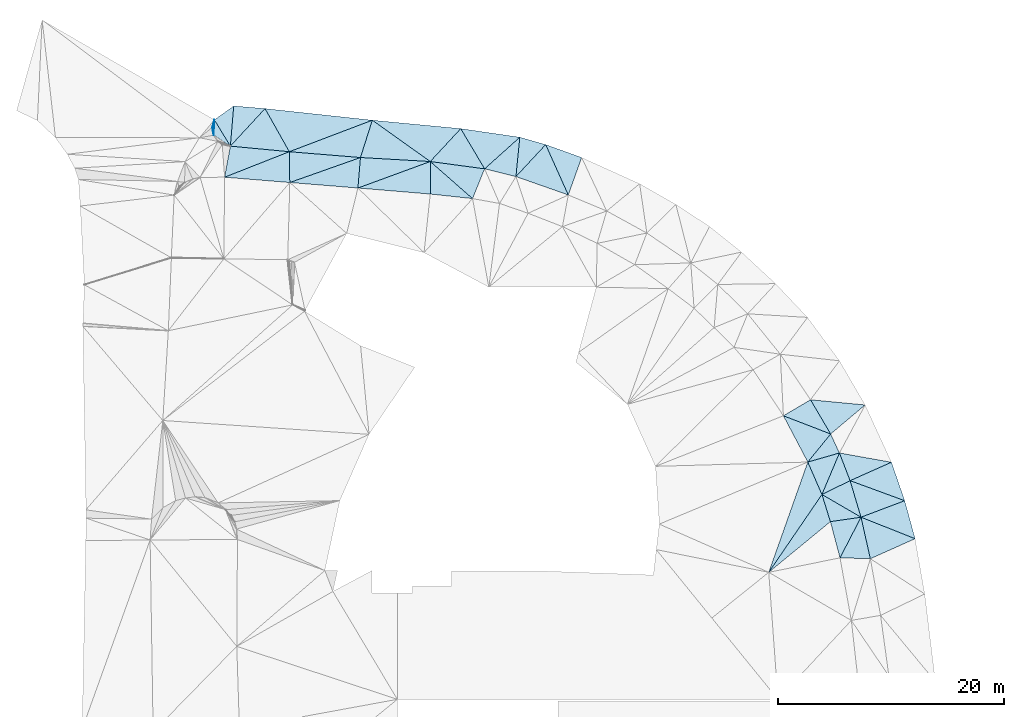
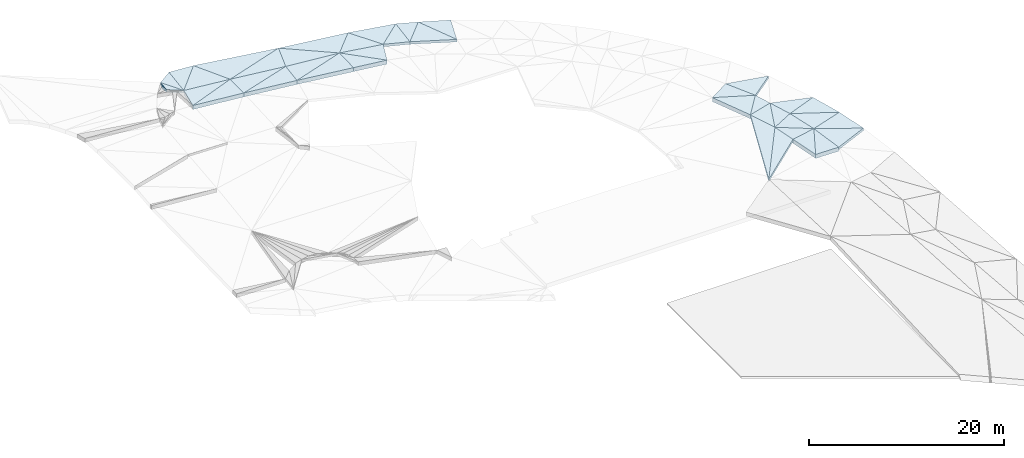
# One storey, part 10 of 23: 40 slabs, 3 elements without a shape of their own.
"""IFC2X3 building model written with IfcOpenShell, lengths in metres."""

from ifc_helpers import new_model, entity, si_unit, converted_unit, direction, frame, origin, place, context, subcontext, project, spatial, polyline, outline, extrude, material, layer, layer_set, type_object, element, aggregate, save


model = new_model("IFC2X3")

# Units and contexts
model_context = context("Model", 3, precision=1e-05, world=origin(), true_north=direction((0.7716245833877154, 0.6360782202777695)))
body_context = subcontext(model_context, "Body", "Model", "MODEL_VIEW")
ifc_project = project(units=[si_unit("LENGTHUNIT", "METRE"), converted_unit("PLANEANGLEUNIT", "DEGREE", entity("IfcPlaneAngleMeasure", 0.017453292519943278), si_unit("PLANEANGLEUNIT", "RADIAN"), dimensions=[0, 0, 0, 0, 0, 0, 0]), si_unit("AREAUNIT", "SQUARE_METRE")], contexts=[model_context])

# Site, building, storey
site_placement = place(None, origin())
site = spatial("IfcSite", under=ifc_project, at=site_placement, Name="Default", CompositionType="ELEMENT")
building_placement = place(site_placement, origin())
building = spatial("IfcBuilding", under=site, at=building_placement, Name="<Building Name>", CompositionType="ELEMENT")
storey_placement = place(building_placement, origin())
storey = spatial("IfcBuildingStorey", under=building, at=storey_placement, Name="00 - HAV", CompositionType="ELEMENT", Elevation=0.0)

# Slabs
slab_1_placement = place(storey_placement, frame((224.3175317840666, 93.71309800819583, 32.7900000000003)))
slab_1 = element("IfcSlab", 1, at=slab_1_placement, inside=storey, Name="Floor:771 Grøntarealer", ObjectType="Floor:771 Grøntarealer", PredefinedType="NOTDEFINED")
ifc_material_1 = material(Name="815 - Terrain, Grøntareal")
ifc_layer_1 = layer(ifc_material_1, 0.02)
ifc_material_2 = material(Name="Site - Soil - Jordlag")
ifc_layer_2 = layer(ifc_material_2, 0.30000000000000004)
ifc_layer_set_1 = layer_set([ifc_layer_1, ifc_layer_2], Name="Floor:771 Grøntarealer")
slab_type_1 = type_object("IfcSlabType", Name="Floor:771 Grøntarealer", PredefinedType="NOTDEFINED")
slab_2_placement = place(slab_1_placement, origin())
slab_2 = element("IfcSlab", 2, at=slab_2_placement, type_object=slab_type_1, material=ifc_layer_set_1, Name="Floor:771 Grøntarealer", ObjectType="Floor:771 Grøntarealer", PredefinedType="NOTDEFINED", context=body_context, shape_type="SweptSolid", body=[
    extrude(outline(polyline([(3.102920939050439, 1.0368373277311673), (2.353564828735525, 3.4601130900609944), (-2.3535648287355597, -3.4601130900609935), (3.102920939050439, 1.0368373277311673)])), frame((55.203150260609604, 7.485100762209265, 0.6749999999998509), z_axis=(0.029996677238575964, -0.12279168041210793, 0.9919790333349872), x_axis=(0.9995499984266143, 0.0036850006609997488, -0.02976947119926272)), (0.02976947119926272, -0.12284696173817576, -0.9919790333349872), 0.3200000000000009),
])
slab_3_placement = place(slab_1_placement, origin())
slab_3 = element("IfcSlab", 3, at=slab_3_placement, type_object=slab_type_1, material=ifc_layer_set_1, Name="Floor:771 Grøntarealer", ObjectType="Floor:771 Grøntarealer", PredefinedType="NOTDEFINED", context=body_context, shape_type="SweptSolid", body=[
    extrude(outline(polyline([(2.9781893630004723, 2.020065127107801), (1.7271135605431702, 4.901403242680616), (-1.7271135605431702, -4.901403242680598), (2.9781893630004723, 2.020065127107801)])), frame((54.577651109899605, 8.919909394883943, 0.8049999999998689), z_axis=(-0.011130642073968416, -0.09504100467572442, 0.9954111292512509), x_axis=(0.9999380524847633, -0.001057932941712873, 0.011080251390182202)), (-0.011080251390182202, -0.09504689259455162, -0.9954111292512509), 0.3200000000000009),
])
aggregate(slab_1, [slab_2, slab_3])

slab_4_placement = place(storey_placement, frame((227.93461709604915, 49.93152636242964, 29.770000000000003)))
slab_4 = element("IfcSlab", 4, at=slab_4_placement, inside=storey, Name="Floor:771 Grøntarealer", ObjectType="Floor:771 Grøntarealer", PredefinedType="NOTDEFINED")
slab_5_placement = place(slab_4_placement, origin())
slab_5 = element("IfcSlab", 5, at=slab_5_placement, type_object=slab_type_1, material=ifc_layer_set_1, Name="Floor:771 Grøntarealer", ObjectType="Floor:771 Grøntarealer", PredefinedType="NOTDEFINED", context=body_context, shape_type="SweptSolid", body=[
    extrude(outline(polyline([(2.4465169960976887, -1.144851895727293), (1.524921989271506, 2.2295165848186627), (-2.347734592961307, 0.783165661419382), (2.4465169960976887, -1.144851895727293)])), frame((59.73832453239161, 51.928783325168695, 3.675006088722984), z_axis=(0.07044299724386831, -0.06362009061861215, 0.9954849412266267), x_axis=(0.9975158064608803, 0.004492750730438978, -0.07029958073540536)), (0.07029958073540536, -0.06377852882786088, -0.9954849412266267), 0.3200000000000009),
])
slab_6_placement = place(slab_4_placement, origin())
slab_6 = element("IfcSlab", 6, at=slab_6_placement, type_object=slab_type_1, material=ifc_layer_set_1, Name="Floor:771 Grøntarealer", ObjectType="Floor:771 Grøntarealer", PredefinedType="NOTDEFINED", context=body_context, shape_type="SweptSolid", body=[
    extrude(outline(polyline([(2.9791384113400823, 0.47548631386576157), (-1.811519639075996, 2.412415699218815), (-0.9846231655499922, -1.2818964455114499), (2.9791384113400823, 0.47548631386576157)])), frame((59.20479711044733, 50.30758351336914, 3.5607568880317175), z_axis=(0.05889713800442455, -0.092280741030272, 0.9939896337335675), x_axis=(0.9982640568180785, 0.005444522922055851, -0.05864494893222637)), (0.05864494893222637, -0.09244121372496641, -0.9939896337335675), 0.3200000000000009),
])
slab_7_placement = place(slab_4_placement, origin())
slab_7 = element("IfcSlab", 7, at=slab_7_placement, type_object=slab_type_1, material=ifc_layer_set_1, Name="Floor:771 Grøntarealer", ObjectType="Floor:771 Grøntarealer", PredefinedType="NOTDEFINED", context=body_context, shape_type="SweptSolid", body=[
    extrude(outline(polyline([(2.4772959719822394, -1.0518327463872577), (1.302375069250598, 2.3552423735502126), (-2.3678962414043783, 0.7345917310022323), (2.4772959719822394, -1.0518327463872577)])), frame((58.78971971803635, 55.205093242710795, 3.9397768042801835), z_axis=(0.07805125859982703, -0.03463094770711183, 0.9963476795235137), x_axis=(0.9969493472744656, 0.0027112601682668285, -0.07800415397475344)), (0.07800415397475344, -0.03473691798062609, -0.9963476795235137), 0.3200000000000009),
])
slab_8_placement = place(slab_4_placement, origin())
slab_8 = element("IfcSlab", 8, at=slab_8_placement, type_object=slab_type_1, material=ifc_layer_set_1, Name="Floor:771 Grøntarealer", ObjectType="Floor:771 Grøntarealer", PredefinedType="NOTDEFINED", context=body_context, shape_type="SweptSolid", body=[
    extrude(outline(polyline([(2.8908761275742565, 0.3697324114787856), (-1.9510387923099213, 2.165020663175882), (-0.9813599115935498, -1.0777440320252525), (2.8908761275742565, 0.3697324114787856)])), frame((58.375450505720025, 53.77966436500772, 3.8867618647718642), z_axis=(0.0688917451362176, -0.05947290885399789, 0.9958498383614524), x_axis=(0.9976241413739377, 0.004106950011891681, -0.06876921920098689)), (0.06876921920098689, -0.05961454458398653, -0.9958498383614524), 0.3200000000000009),
])
slab_9_placement = place(slab_4_placement, origin())
slab_9 = element("IfcSlab", 9, at=slab_9_placement, type_object=slab_type_1, material=ifc_layer_set_1, Name="Floor:771 Grøntarealer", ObjectType="Floor:771 Grøntarealer", PredefinedType="NOTDEFINED", context=body_context, shape_type="SweptSolid", body=[
    extrude(outline(polyline([(2.5083589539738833, 0.6881425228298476), (-2.1087989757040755, 1.5226199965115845), (-1.162400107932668, -0.9314030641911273), (2.5083589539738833, 0.6881425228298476)])), frame((57.587747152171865, 56.867104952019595, 4.093302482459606), z_axis=(0.07972522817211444, -0.03842795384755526, 0.9960758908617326), x_axis=(0.9968168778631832, 0.003073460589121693, -0.07966596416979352)), (0.07966596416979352, -0.038550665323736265, -0.9960758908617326), 0.3200000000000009),
])
slab_10_placement = place(slab_4_placement, origin())
slab_10 = element("IfcSlab", 10, at=slab_10_placement, type_object=slab_type_1, material=ifc_layer_set_1, Name="Floor:771 Grøntarealer", ObjectType="Floor:771 Grøntarealer", PredefinedType="NOTDEFINED", context=body_context, shape_type="SweptSolid", body=[
    extrude(outline(polyline([(2.5647165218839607, 1.181219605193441), (-2.290266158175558, 1.6515845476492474), (-0.5005209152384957, -1.3812049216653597), (2.5647165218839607, 1.181219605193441)])), frame((55.2083223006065, 61.44416889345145, 4.543537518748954), z_axis=(0.08802515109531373, -0.027102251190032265, 0.9957494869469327), x_axis=(0.9961182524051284, 0.002394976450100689, -0.08799256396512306)), (0.08799256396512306, -0.027207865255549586, -0.9957494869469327), 0.3200000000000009),
])
slab_11_placement = place(slab_4_placement, origin())
slab_11 = element("IfcSlab", 11, at=slab_11_placement, type_object=slab_type_1, material=ifc_layer_set_1, Name="Floor:771 Grøntarealer", ObjectType="Floor:771 Grøntarealer", PredefinedType="NOTDEFINED", context=body_context, shape_type="SweptSolid", body=[
    extrude(outline(polyline([(2.187973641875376, 1.0806578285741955), (-1.0013381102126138, 2.2287826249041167), (1.0013381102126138, -2.228782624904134), (2.187973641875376, 1.0806578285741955)])), frame((30.498721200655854, 83.4349060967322, 6.9500000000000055), z_axis=(0.04625478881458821, -0.019582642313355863, 0.9987377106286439), x_axis=(0.9989296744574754, 0.0009067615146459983, -0.046245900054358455)), (0.046245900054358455, -0.019603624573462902, -0.9987377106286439), 0.3200000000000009),
])
slab_12_placement = place(slab_4_placement, origin())
slab_12 = element("IfcSlab", 12, at=slab_12_placement, type_object=slab_type_1, material=ifc_layer_set_1, Name="Floor:771 Grøntarealer", ObjectType="Floor:771 Grøntarealer", PredefinedType="NOTDEFINED", context=body_context, shape_type="SweptSolid", body=[
    extrude(outline(polyline([(1.6206371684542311, 1.3275018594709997), (-0.674180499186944, 1.9834834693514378), (-1.01765584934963, -1.4998661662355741), (1.6206371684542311, 1.3275018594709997)])), frame((27.882345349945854, 84.33337796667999, 7.143648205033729), z_axis=(0.0746974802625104, -0.01306988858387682, 0.9971205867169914), x_axis=(0.9972062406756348, 0.0009790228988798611, -0.07469106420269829)), (0.07469106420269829, -0.013106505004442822, -0.9971205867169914), 0.3200000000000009),
])
slab_13_placement = place(slab_4_placement, origin())
slab_13 = element("IfcSlab", 13, at=slab_13_placement, type_object=slab_type_1, material=ifc_layer_set_1, Name="Floor:771 Grøntarealer", ObjectType="Floor:771 Grøntarealer", PredefinedType="NOTDEFINED", context=body_context, shape_type="SweptSolid", body=[
    extrude(outline(polyline([(-0.3289814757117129, 2.950641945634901), (-2.9663986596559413, 0.12245690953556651), (1.676489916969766, -1.5056664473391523), (-0.3289814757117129, 2.950641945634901)])), frame((29.826626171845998, 82.71202926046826, 6.990873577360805), z_axis=(0.07013664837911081, -0.008808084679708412, 0.9974985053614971), x_axis=(0.9975373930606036, 0.0006192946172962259, -0.07013391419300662)), (0.07013391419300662, -0.00882982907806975, -0.9974985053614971), 0.3200000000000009),
])
slab_14_placement = place(slab_4_placement, origin())
slab_14 = element("IfcSlab", 14, at=slab_14_placement, type_object=slab_type_1, material=ifc_layer_set_1, Name="Floor:771 Grøntarealer", ObjectType="Floor:771 Grøntarealer", PredefinedType="NOTDEFINED", context=body_context, shape_type="SweptSolid", body=[
    extrude(outline(polyline([(2.8459231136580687, 1.2148936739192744), (-2.3870859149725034, 1.9690266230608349), (-0.26894730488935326, -1.5862636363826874), (2.8459231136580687, 1.2148936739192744)])), frame((24.367755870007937, 85.10405840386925, 7.386555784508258), z_axis=(0.050495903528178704, 0.018803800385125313, 0.9985472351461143), x_axis=(0.9987242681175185, -0.0009507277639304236, -0.0504869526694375)), (0.0504869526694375, 0.018827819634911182, -0.9985472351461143), 0.3200000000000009),
])
slab_15_placement = place(slab_4_placement, origin())
slab_15 = element("IfcSlab", 15, at=slab_15_placement, type_object=slab_type_1, material=ifc_layer_set_1, Name="Floor:771 Grøntarealer", ObjectType="Floor:771 Grøntarealer", PredefinedType="NOTDEFINED", context=body_context, shape_type="SweptSolid", body=[
    extrude(outline(polyline([(0.771283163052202, 2.27849436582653), (-2.349480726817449, -0.5160955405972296), (0.4276810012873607, -1.2048427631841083), (0.771283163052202, 2.27849436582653)])), frame((26.4412038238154, 84.03691455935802, 7.250339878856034), z_axis=(0.07945810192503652, -0.013535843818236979, 0.9967463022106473), x_axis=(0.9968382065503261, 0.001078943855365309, -0.0794507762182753)), (0.0794507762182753, -0.013578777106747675, -0.9967463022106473), 0.3200000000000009),
])
slab_16_placement = place(slab_4_placement, origin())
slab_16 = element("IfcSlab", 16, at=slab_16_placement, type_object=slab_type_1, material=ifc_layer_set_1, Name="Floor:771 Grøntarealer", ObjectType="Floor:771 Grøntarealer", PredefinedType="NOTDEFINED", context=body_context, shape_type="SweptSolid", body=[
    extrude(outline(polyline([(4.0627986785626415, 1.19888976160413), (-3.766022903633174, 1.939263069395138), (1.3645560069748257, -1.712155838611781), (4.0627986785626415, 1.19888976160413)])), frame((17.925252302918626, 85.87918745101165, 7.67631928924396), z_axis=(0.046186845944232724, 0.015576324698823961, 0.9988113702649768), x_axis=(0.9989328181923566, -0.0007201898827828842, -0.046181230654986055)), (0.046181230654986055, 0.015592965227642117, -0.9988113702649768), 0.3200000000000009),
])
slab_17_placement = place(slab_4_placement, origin())
slab_17 = element("IfcSlab", 17, at=slab_17_placement, type_object=slab_type_1, material=ifc_layer_set_1, Name="Floor:771 Grøntarealer", ObjectType="Floor:771 Grøntarealer", PredefinedType="NOTDEFINED", context=body_context, shape_type="SweptSolid", body=[
    extrude(outline(polyline([(-0.10678756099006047, 2.8049518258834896), (-2.8049762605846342, -0.10614379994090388), (2.010866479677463, -0.7506270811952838), (-0.10678756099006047, 2.8049518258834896)])), frame((22.09039096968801, 84.27033437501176, 7.509983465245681), z_axis=(0.045752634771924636, 0.01597947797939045, 0.9988249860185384), x_axis=(0.9989527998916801, -0.0007318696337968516, -0.045746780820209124)), (0.045746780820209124, 0.015996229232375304, -0.9988249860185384), 0.3200000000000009),
])
slab_18_placement = place(slab_4_placement, origin())
slab_18 = element("IfcSlab", 18, at=slab_18_placement, type_object=slab_type_1, material=ifc_layer_set_1, Name="Floor:771 Grøntarealer", ObjectType="Floor:771 Grøntarealer", PredefinedType="NOTDEFINED", context=body_context, shape_type="SweptSolid", body=[
    extrude(outline(polyline([(4.94450312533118, 1.2544734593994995), (-4.55981075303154, 2.2869063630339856), (-2.40948631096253, -1.529846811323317), (4.94450312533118, 1.2544734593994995)])), frame((9.22559353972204, 86.56399903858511, 8.06801430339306), z_axis=(0.052612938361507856, -0.009646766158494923, 0.9985683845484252), x_axis=(0.9986149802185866, 0.0005082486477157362, -0.052610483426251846)), (0.052610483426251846, -0.009660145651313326, -0.9985683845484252), 0.3200000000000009),
])
slab_19_placement = place(slab_4_placement, origin())
slab_19 = element("IfcSlab", 19, at=slab_19_placement, type_object=slab_type_1, material=ifc_layer_set_1, Name="Floor:771 Grøntarealer", ObjectType="Floor:771 Grøntarealer", PredefinedType="NOTDEFINED", context=body_context, shape_type="SweptSolid", body=[
    extrude(outline(polyline([(3.1939189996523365, 2.664406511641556), (-4.157411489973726, -0.12692650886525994), (2.143242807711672, -0.6378623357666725), (3.1939189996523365, 2.664406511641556)])), frame((10.97259944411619, 85.15807003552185, 7.990682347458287), z_axis=(0.04523937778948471, 0.00982267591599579, 0.9989278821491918), x_axis=(0.9989761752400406, -0.00044482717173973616, -0.04523719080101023)), (0.04523719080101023, 0.0098327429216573, -0.9989278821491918), 0.3200000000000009),
])
slab_20_placement = place(slab_4_placement, origin())
slab_20 = element("IfcSlab", 20, at=slab_20_placement, type_object=slab_type_1, material=ifc_layer_set_1, Name="Floor:771 Grøntarealer", ObjectType="Floor:771 Grøntarealer", PredefinedType="NOTDEFINED", context=body_context, shape_type="SweptSolid", body=[
    extrude(outline(polyline([(-2.331478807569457, 2.5599690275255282), (-3.382036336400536, -0.7423375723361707), (2.7982980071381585, -1.0925766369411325), (-2.331478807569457, 2.5599690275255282)])), frame((16.492603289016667, 85.26004351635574, 7.747774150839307), z_axis=(0.04267488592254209, 0.010640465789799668, 0.9990323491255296), x_axis=(0.9990890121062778, -0.00045449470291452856, -0.04267246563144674)), (0.04267246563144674, 0.010650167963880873, -0.9990323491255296), 0.3200000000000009),
])
slab_21_placement = place(slab_4_placement, origin())
slab_21 = element("IfcSlab", 21, at=slab_21_placement, type_object=slab_type_1, material=ifc_layer_set_1, Name="Floor:771 Grøntarealer", ObjectType="Floor:771 Grøntarealer", PredefinedType="NOTDEFINED", context=body_context, shape_type="SweptSolid", body=[
    extrude(outline(polyline([(1.5344355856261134, 1.6602281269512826), (-1.2350897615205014, 1.8913760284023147), (-1.534435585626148, -1.6602281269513), (1.5344355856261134, 1.6602281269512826)])), frame((3.1376630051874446, 87.18832046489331, 8.315000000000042), z_axis=(-0.0007000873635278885, -0.008387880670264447, 0.999964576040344), x_axis=(0.9999997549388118, -5.87225070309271e-06, 0.000700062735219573)), (-0.000700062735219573, -0.008387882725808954, -0.999964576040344), 0.3200000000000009),
])
slab_22_placement = place(slab_4_placement, origin())
slab_22 = element("IfcSlab", 22, at=slab_22_placement, type_object=slab_type_1, material=ifc_layer_set_1, Name="Floor:771 Grøntarealer", ObjectType="Floor:771 Grøntarealer", PredefinedType="NOTDEFINED", context=body_context, shape_type="SweptSolid", body=[
    extrude(outline(polyline([(0.0041717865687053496, 3.075089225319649), (-3.065334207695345, -0.2447801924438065), (2.151962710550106, -0.7430902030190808), (0.0041717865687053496, 3.075089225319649)])), frame((4.6679272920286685, 85.77458182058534, 8.244463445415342), z_axis=(0.02034893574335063, -0.027837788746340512, 0.9994053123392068), x_axis=(0.9997929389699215, 0.0005665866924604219, -0.02034104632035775)), (0.02034104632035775, -0.027843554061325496, -0.9994053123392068), 0.3200000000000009),
])
slab_23_placement = place(slab_4_placement, origin())
slab_23 = element("IfcSlab", 23, at=slab_23_placement, type_object=slab_type_1, material=ifc_layer_set_1, Name="Floor:771 Grøntarealer", ObjectType="Floor:771 Grøntarealer", PredefinedType="NOTDEFINED", context=body_context, shape_type="SweptSolid", body=[
    extrude(outline(polyline([(0.14977857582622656, 1.7757931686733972), (-1.5608912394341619, 0.5487199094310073), (-0.14977857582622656, -1.7757931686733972), (0.14977857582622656, 1.7757931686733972)])), frame((1.7529006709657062, 87.30389848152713, 8.314999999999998), z_axis=(0.037562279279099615, -0.011606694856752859, 0.999226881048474), x_axis=(0.9992942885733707, 0.00043628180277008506, -0.03755974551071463)), (0.03755974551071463, -0.011614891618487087, -0.999226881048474), 0.3200000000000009),
])
slab_24_placement = place(slab_4_placement, origin())
slab_24 = element("IfcSlab", 24, at=slab_24_placement, type_object=slab_type_1, material=ifc_layer_set_1, Name="Floor:771 Grøntarealer", ObjectType="Floor:771 Grøntarealer", PredefinedType="NOTDEFINED", context=body_context, shape_type="SweptSolid", body=[
    extrude(outline(polyline([(0.0300915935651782, 0.6793706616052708), (-0.16445404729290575, 0.0022059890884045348), (-0.030091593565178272, -0.6793706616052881), (0.0300915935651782, 0.6793706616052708)])), frame((0.1632412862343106, 87.1728143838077, 8.359999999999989), z_axis=(0.12122108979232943, -0.034548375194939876, 0.9920241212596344), x_axis=(0.9926255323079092, 0.004219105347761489, -0.12114764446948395)), (0.12114764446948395, -0.03480504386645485, -0.9920241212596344), 0.3200000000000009),
])
slab_25_placement = place(slab_4_placement, origin())
slab_25 = element("IfcSlab", 25, at=slab_25_placement, type_object=slab_type_1, material=ifc_layer_set_1, Name="Floor:771 Grøntarealer", ObjectType="Floor:771 Grøntarealer", PredefinedType="NOTDEFINED", context=body_context, shape_type="SweptSolid", body=[
    extrude(outline(polyline([(-0.7050790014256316, 1.1625461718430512), (-0.7648201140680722, -0.19621466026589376), (0.705079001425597, -1.1625461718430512), (-0.7050790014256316, 1.1625461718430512)])), frame((0.8981693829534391, 86.69003007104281, 8.339999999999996), z_axis=(0.007642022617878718, -0.029773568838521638, 0.9995274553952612), x_axis=(0.999970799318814, 0.00022753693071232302, -0.007638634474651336)), (0.007638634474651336, -0.02977443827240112, -0.9995274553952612), 0.3200000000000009),
])
aggregate(slab_4, [slab_5, slab_6, slab_7, slab_8, slab_9, slab_10, slab_11, slab_12, slab_13, slab_14, slab_15, slab_16, slab_17, slab_18, slab_19, slab_20, slab_21, slab_22, slab_23, slab_24, slab_25])

slab_26_placement = place(storey_placement, frame((224.56733296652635, 45.19076679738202, 29.34)))
slab_26 = element("IfcSlab", 26, at=slab_26_placement, inside=storey, Name="Floor:761 Asfalt - Gangarealer", ObjectType="Floor:761 Asfalt - Gangarealer", PredefinedType="NOTDEFINED")
ifc_material_3 = material(Name="Site - Aspahlt - Pulverasfalt")
ifc_layer_3 = layer(ifc_material_3, 0.025)
ifc_material_4 = material(Name="A_Default_Building_Part")
ifc_layer_4 = layer(ifc_material_4, 0.05)
ifc_material_5 = material(Name="Site - Gravel - Stabilitet grus")
ifc_layer_5 = layer(ifc_material_5, 0.1)
ifc_material_6 = material(Name="Site - Gravel - Bunnsikringsgrus")
ifc_layer_6 = layer(ifc_material_6, 0.325)
ifc_layer_set_2 = layer_set([ifc_layer_3, ifc_layer_4, ifc_layer_5, ifc_layer_6], Name="Floor:761 Asfalt - Gangarealer")
slab_type_2 = type_object("IfcSlabType", Name="Floor:761 Asfalt - Gangarealer", PredefinedType="NOTDEFINED")
slab_27_placement = place(slab_26_placement, origin())
slab_27 = element("IfcSlab", 27, at=slab_27_placement, type_object=slab_type_2, material=ifc_layer_set_2, Name="Floor:761 Asfalt - Gangarealer", ObjectType="Floor:761 Asfalt - Gangarealer", PredefinedType="NOTDEFINED", context=body_context, shape_type="SweptSolid", body=[
    extrude(outline(polyline([(-2.99495380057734, -1.114936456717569), (2.7725400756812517, -1.5892932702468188), (2.729441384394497, 1.1367739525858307), (-2.99495380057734, -1.114936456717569)])), frame((7.45816580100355, 88.63545643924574, 8.646317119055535), z_axis=(0.02537165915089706, -0.02893603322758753, 0.9992592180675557), x_axis=(0.9996780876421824, 0.000734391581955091, -0.025361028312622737)), (0.025361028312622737, -0.028945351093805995, -0.9992592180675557), 0.49999999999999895),
])
slab_28_placement = place(slab_26_placement, origin())
slab_28 = element("IfcSlab", 28, at=slab_28_placement, type_object=slab_type_2, material=ifc_layer_set_2, Name="Floor:761 Asfalt - Gangarealer", ObjectType="Floor:761 Asfalt - Gangarealer", PredefinedType="NOTDEFINED", context=body_context, shape_type="SweptSolid", body=[
    extrude(outline(polyline([(-2.4271919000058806, -2.2309520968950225), (3.2966523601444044, 0.02215839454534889), (-1.920741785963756, 0.5194493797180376), (-2.4271919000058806, -2.2309520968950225)])), frame((6.890820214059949, 89.7503114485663, 8.679615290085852), z_axis=(0.021244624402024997, -0.018450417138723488, 0.9996040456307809), x_axis=(0.9997743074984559, 0.00039206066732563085, -0.021241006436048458)), (0.021241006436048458, -0.018454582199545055, -0.9996040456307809), 0.49999999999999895),
])
slab_29_placement = place(slab_26_placement, origin())
slab_29 = element("IfcSlab", 29, at=slab_29_placement, type_object=slab_type_2, material=ifc_layer_set_2, Name="Floor:761 Asfalt - Gangarealer", ObjectType="Floor:761 Asfalt - Gangarealer", PredefinedType="NOTDEFINED", context=body_context, shape_type="SweptSolid", body=[
    extrude(outline(polyline([(-3.1278579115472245, -1.1036099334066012), (2.903314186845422, -1.595812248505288), (3.12785791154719, 1.1036099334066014), (-3.1278579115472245, -1.1036099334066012)])), frame((13.355372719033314, 88.15445497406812, 8.430000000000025), z_axis=(0.038330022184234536, -0.017992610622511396, 0.9991031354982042), x_axis=(0.9992651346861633, 0.0006901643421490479, -0.03832380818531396)), (0.03832380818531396, -0.018005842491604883, -0.9991031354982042), 0.49999999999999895),
])
slab_30_placement = place(slab_26_placement, origin())
slab_30 = element("IfcSlab", 30, at=slab_30_placement, type_object=slab_type_2, material=ifc_layer_set_2, Name="Floor:761 Asfalt - Gangarealer", ObjectType="Floor:761 Asfalt - Gangarealer", PredefinedType="NOTDEFINED", context=body_context, shape_type="SweptSolid", body=[
    extrude(outline(polyline([(-2.698725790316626, -2.321526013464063), (3.5579371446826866, -0.11699229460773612), (-2.7418488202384, 0.4045408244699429), (-2.698725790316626, -2.321526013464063)])), frame((12.926147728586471, 89.37269395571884, 8.48304350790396), z_axis=(0.04208890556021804, -0.028655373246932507, 0.998702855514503), x_axis=(0.999113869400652, 0.001207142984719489, -0.04207159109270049)), (0.04207159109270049, -0.0286807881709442, -0.998702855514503), 0.49999999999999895),
])
slab_31_placement = place(slab_26_placement, origin())
slab_31 = element("IfcSlab", 31, at=slab_31_placement, type_object=slab_type_2, material=ifc_layer_set_2, Name="Floor:761 Asfalt - Gangarealer", ObjectType="Floor:761 Asfalt - Gangarealer", PredefinedType="NOTDEFINED", context=body_context, shape_type="SweptSolid", body=[
    extrude(outline(polyline([(-3.3239493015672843, -1.1583065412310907), (3.082246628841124, -1.700020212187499), (3.0822259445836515, 1.1787468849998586), (-3.3239493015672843, -1.1583065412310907)])), frame((19.576822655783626, 87.72394439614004, 8.173962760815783), z_axis=(0.04704266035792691, -0.03469829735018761, 0.9982900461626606), x_axis=(0.9988928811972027, 0.001634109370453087, -0.0470142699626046)), (0.0470142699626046, -0.03473675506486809, -0.9982900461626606), 0.49999999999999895),
])
slab_32_placement = place(slab_26_placement, origin())
slab_32 = element("IfcSlab", 32, at=slab_32_placement, type_object=slab_type_2, material=ifc_layer_set_2, Name="Floor:761 Asfalt - Gangarealer", ObjectType="Floor:761 Asfalt - Gangarealer", PredefinedType="NOTDEFINED", context=body_context, shape_type="SweptSolid", body=[
    extrude(outline(polyline([(-2.780170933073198, -2.3251875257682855), (3.6243033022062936, 0.016523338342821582), (-2.5556031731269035, 0.3742326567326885), (-2.780170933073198, -2.3251875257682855)])), frame((19.034383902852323, 88.8877855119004, 8.218355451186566), z_axis=(0.041023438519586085, -0.018214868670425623, 0.9989921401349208), x_axis=(0.999158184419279, 0.0007478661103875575, -0.041016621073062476)), (0.041016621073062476, -0.018230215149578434, -0.9989921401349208), 0.49999999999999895),
])
slab_33_placement = place(slab_26_placement, origin())
slab_33 = element("IfcSlab", 33, at=slab_33_placement, type_object=slab_type_2, material=ifc_layer_set_2, Name="Floor:761 Asfalt - Gangarealer", ObjectType="Floor:761 Asfalt - Gangarealer", PredefinedType="NOTDEFINED", context=body_context, shape_type="SweptSolid", body=[
    extrude(outline(polyline([(-1.8709511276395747, -1.236028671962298), (1.8709717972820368, -1.6427384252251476), (-1.8709717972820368, 1.6427384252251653), (-1.8709511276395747, -1.236028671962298)])), frame((24.52585807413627, 87.26710953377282, 7.959999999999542), z_axis=(0.028310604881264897, -0.034722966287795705, 0.9989959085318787), x_axis=(0.9995991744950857, 0.0009834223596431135, -0.028293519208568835)), (0.028293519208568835, -0.03473688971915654, -0.9989959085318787), 0.49999999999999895),
])
slab_34_placement = place(slab_26_placement, origin())
slab_34 = element("IfcSlab", 34, at=slab_34_placement, type_object=slab_type_2, material=ifc_layer_set_2, Name="Floor:761 Asfalt - Gangarealer", ObjectType="Floor:761 Asfalt - Gangarealer", PredefinedType="NOTDEFINED", context=body_context, shape_type="SweptSolid", body=[
    extrude(outline(polyline([(1.6434112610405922, -2.2028152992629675), (2.7146616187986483, 0.4287284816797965), (-2.1001583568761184, 1.080808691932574), (1.6434112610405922, -2.2028152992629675)])), frame((24.75404092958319, 87.82818637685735, 7.962131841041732), z_axis=(0.04085716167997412, -0.020411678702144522, 0.9989564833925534), x_axis=(0.9991649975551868, 0.0008346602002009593, -0.04084863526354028)), (0.04084863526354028, -0.02042873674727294, -0.9989564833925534), 0.49999999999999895),
])
slab_35_placement = place(slab_26_placement, origin())
slab_35 = element("IfcSlab", 35, at=slab_35_placement, type_object=slab_type_2, material=ifc_layer_set_2, Name="Floor:761 Asfalt - Gangarealer", ObjectType="Floor:761 Asfalt - Gangarealer", PredefinedType="NOTDEFINED", context=body_context, shape_type="SweptSolid", body=[
    extrude(outline(polyline([(-2.3842332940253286, 1.3736905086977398), (-0.22808413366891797, -2.742183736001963), (1.7941271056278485, -0.24723650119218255), (-2.3842332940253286, 1.3736905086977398)])), frame((56.28293619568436, 65.04787016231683, 5.016157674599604), z_axis=(0.006236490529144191, -0.10122130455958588, 0.9948443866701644), x_axis=(0.9999805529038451, 0.0006312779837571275, -0.006204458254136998)), (0.006204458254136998, -0.10122327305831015, -0.9948443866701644), 0.49999999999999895),
])
slab_36_placement = place(slab_26_placement, origin())
slab_36 = element("IfcSlab", 36, at=slab_36_placement, type_object=slab_type_2, material=ifc_layer_set_2, Name="Floor:761 Asfalt - Gangarealer", ObjectType="Floor:761 Asfalt - Gangarealer", PredefinedType="NOTDEFINED", context=body_context, shape_type="SweptSolid", body=[
    extrude(outline(polyline([(-2.4846499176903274, -0.21025825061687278), (1.694404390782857, -1.8293953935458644), (-0.08872426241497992, 1.207289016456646), (-2.4846499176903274, -0.21025825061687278)])), frame((56.38293831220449, 66.62601718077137, 5.1365009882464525), z_axis=(0.01925986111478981, -0.06773767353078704, 0.997517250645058), x_axis=(0.9998145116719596, 0.0013048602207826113, -0.019215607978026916)), (0.019215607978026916, -0.06775024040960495, -0.997517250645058), 0.49999999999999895),
])
slab_37_placement = place(slab_26_placement, origin())
slab_37 = element("IfcSlab", 37, at=slab_37_placement, type_object=slab_type_2, material=ifc_layer_set_2, Name="Floor:761 Asfalt - Gangarealer", ObjectType="Floor:761 Asfalt - Gangarealer", PredefinedType="NOTDEFINED", context=body_context, shape_type="SweptSolid", body=[
    extrude(outline(polyline([(-1.9493152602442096, 0.8657929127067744), (-0.6980699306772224, -2.0154715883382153), (0.8493256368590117, 1.6671724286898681), (-1.9493152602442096, 0.8657929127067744)])), frame((58.00378691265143, 61.45988615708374, 4.6307149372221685), z_axis=(0.01986989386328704, -0.08162195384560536, 0.9964652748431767), x_axis=(0.9998025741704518, 0.001622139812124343, -0.01980356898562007)), (0.01980356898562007, -0.08163807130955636, -0.9964652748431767), 0.49999999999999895),
])
slab_38_placement = place(slab_26_placement, origin())
slab_38 = element("IfcSlab", 38, at=slab_38_placement, type_object=slab_type_2, material=ifc_layer_set_2, Name="Floor:761 Asfalt - Gangarealer", ObjectType="Floor:761 Asfalt - Gangarealer", PredefinedType="NOTDEFINED", context=body_context, shape_type="SweptSolid", body=[
    extrude(outline(polyline([(-1.1468867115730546, -1.285682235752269), (1.6525726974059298, -0.4871667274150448), (0.8762760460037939, 1.208493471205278), (-1.1468867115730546, -1.285682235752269)])), frame((57.2011815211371, 63.600154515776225, 4.860483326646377), z_axis=(0.03129313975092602, -0.12136048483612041, 0.9921151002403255), x_axis=(0.9995102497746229, 0.003799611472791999, -0.03106160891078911)), (0.03106160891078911, -0.12141995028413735, -0.9921151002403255), 0.49999999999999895),
])
slab_39_placement = place(slab_26_placement, origin())
slab_39 = element("IfcSlab", 39, at=slab_39_placement, type_object=slab_type_2, material=ifc_layer_set_2, Name="Floor:761 Asfalt - Gangarealer", ObjectType="Floor:761 Asfalt - Gangarealer", PredefinedType="NOTDEFINED", context=body_context, shape_type="SweptSolid", body=[
    extrude(outline(polyline([(-1.7301500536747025, 1.0057985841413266), (-0.980600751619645, -1.4174174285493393), (1.7301500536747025, -1.0057985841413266), (-1.7301500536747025, 1.0057985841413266)])), frame((59.03478054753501, 58.44528803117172, 4.399999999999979), z_axis=(-0.037613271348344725, -0.14346832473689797, 0.9889398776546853), x_axis=(0.9992923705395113, -0.005400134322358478, 0.03722360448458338)), (-0.03722360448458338, -0.14356991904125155, -0.9889398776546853), 0.49999999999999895),
])
slab_40_placement = place(slab_26_placement, origin())
slab_40 = element("IfcSlab", 40, at=slab_40_placement, type_object=slab_type_2, material=ifc_layer_set_2, Name="Floor:761 Asfalt - Gangarealer", ObjectType="Floor:761 Asfalt - Gangarealer", PredefinedType="NOTDEFINED", context=body_context, shape_type="SweptSolid", body=[
    extrude(outline(polyline([(-2.3118494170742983, 0.007970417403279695), (1.1460026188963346, -2.0078319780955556), (0.1786274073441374, 1.235620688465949), (-2.3118494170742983, 0.007970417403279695)])), frame((59.61770385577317, 59.4419614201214, 4.480646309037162), z_axis=(-0.0005583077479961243, -0.0803274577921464, 0.9967683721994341), x_axis=(0.9999998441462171, -4.4847449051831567e-05, 0.0005565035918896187)), (-0.0005565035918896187, -0.08032747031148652, -0.9967683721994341), 0.49999999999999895),
])
slab_41_placement = place(slab_26_placement, origin())
slab_41 = element("IfcSlab", 41, at=slab_41_placement, type_object=slab_type_2, material=ifc_layer_set_2, Name="Floor:761 Asfalt - Gangarealer", ObjectType="Floor:761 Asfalt - Gangarealer", PredefinedType="NOTDEFINED", context=body_context, shape_type="SweptSolid", body=[
    extrude(outline(polyline([(-0.7735550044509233, -1.8413819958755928), (1.716953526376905, -0.6137960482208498), (0.7735550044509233, 1.8413819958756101), (-0.7735550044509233, -1.8413819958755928)])), frame((58.07939983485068, 61.28644056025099, 4.615000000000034), z_axis=(-0.005076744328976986, -0.07118627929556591, 0.9974501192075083), x_axis=(0.9999871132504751, -0.0003613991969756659, 0.005063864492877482)), (-0.005063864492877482, -0.07118719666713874, -0.9974501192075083), 0.49999999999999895),
])
slab_42_placement = place(slab_26_placement, origin())
slab_42 = element("IfcSlab", 42, at=slab_42_placement, type_object=slab_type_2, material=ifc_layer_set_2, Name="Floor:761 Asfalt - Gangarealer", ObjectType="Floor:761 Asfalt - Gangarealer", PredefinedType="NOTDEFINED", context=body_context, shape_type="SweptSolid", body=[
    extrude(outline(polyline([(-1.742393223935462, 1.255912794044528), (-0.8917495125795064, -1.953978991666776), (0.9692771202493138, 1.661429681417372), (-1.742393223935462, 1.255912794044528)])), frame((59.79544351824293, 55.789860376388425, 4.12639249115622), z_axis=(-0.045737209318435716, -0.08986164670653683, 0.994903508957), x_axis=(0.9989535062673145, -0.00411432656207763, 0.04555177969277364)), (-0.04555177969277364, -0.0899557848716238, -0.994903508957), 0.49999999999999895),
])
slab_43_placement = place(slab_26_placement, origin())
slab_43 = element("IfcSlab", 43, at=slab_43_placement, type_object=slab_type_2, material=ifc_layer_set_2, Name="Floor:761 Asfalt - Gangarealer", ObjectType="Floor:761 Asfalt - Gangarealer", PredefinedType="NOTDEFINED", context=body_context, shape_type="SweptSolid", body=[
    extrude(outline(polyline([(-1.3958044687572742, -1.7945866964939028), (1.2888881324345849, -1.8728531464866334), (0.46338021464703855, 1.8217695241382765), (-1.3958044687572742, -1.7945866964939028)])), frame((60.300352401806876, 55.62997095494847, 4.1184731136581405), z_axis=(-0.010658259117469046, -0.10792020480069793, 0.9941024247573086), x_axis=(0.9999431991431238, -0.0011503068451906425, 0.010596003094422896)), (-0.010596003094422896, -0.10792633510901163, -0.9941024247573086), 0.49999999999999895),
])
aggregate(slab_26, [slab_27, slab_28, slab_29, slab_30, slab_31, slab_32, slab_33, slab_34, slab_35, slab_36, slab_37, slab_38, slab_39, slab_40, slab_41, slab_42, slab_43])

save(model, "model.ifc")
